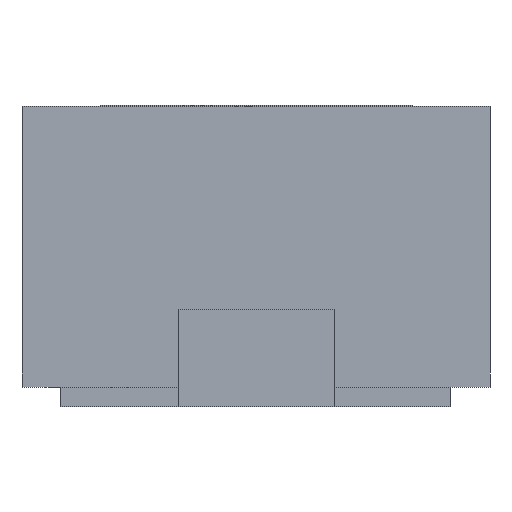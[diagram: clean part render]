
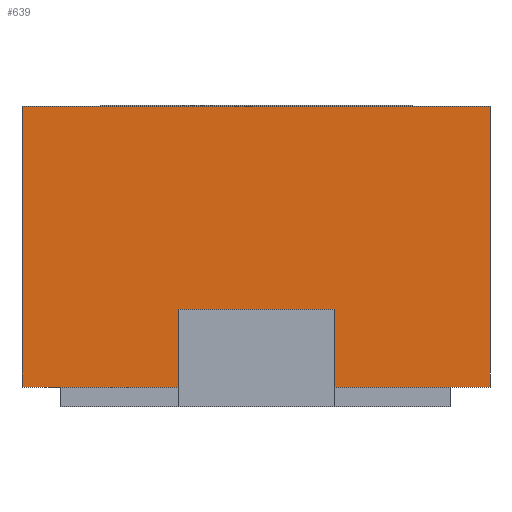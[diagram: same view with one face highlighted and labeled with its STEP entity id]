
A CAD part, front view. The second image highlights one B-rep face of the part: STEP entity #639.
In plain terms, the highlighted planar face has unit normal (0, -1, 0).
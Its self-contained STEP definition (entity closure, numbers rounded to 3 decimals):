
#44=FACE_OUTER_BOUND('',#74,.T.);
#74=EDGE_LOOP('',(#537,#538,#539,#540,#541,#542,#543,#544));
#120=LINE('',#914,#204);
#128=LINE('',#930,#212);
#145=LINE('',#964,#229);
#148=LINE('',#970,#232);
#151=LINE('',#975,#235);
#155=LINE('',#983,#239);
#159=LINE('',#991,#243);
#160=LINE('',#993,#244);
#204=VECTOR('',#752,0.2);
#212=VECTOR('',#760,0.2);
#229=VECTOR('',#791,0.1);
#232=VECTOR('',#796,0.2);
#235=VECTOR('',#801,0.1);
#239=VECTOR('',#809,0.36);
#243=VECTOR('',#817,0.36);
#244=VECTOR('',#820,0.6);
#274=VERTEX_POINT('',#911);
#275=VERTEX_POINT('',#913);
#282=VERTEX_POINT('',#927);
#283=VERTEX_POINT('',#929);
#293=VERTEX_POINT('',#963);
#295=VERTEX_POINT('',#969);
#297=VERTEX_POINT('',#979);
#300=VERTEX_POINT('',#989);
#344=EDGE_CURVE('',#275,#274,#120,.T.);
#352=EDGE_CURVE('',#283,#282,#128,.T.);
#369=EDGE_CURVE('',#293,#275,#145,.T.);
#372=EDGE_CURVE('',#295,#293,#148,.T.);
#375=EDGE_CURVE('',#282,#295,#151,.T.);
#379=EDGE_CURVE('',#283,#297,#155,.T.);
#383=EDGE_CURVE('',#274,#300,#159,.T.);
#384=EDGE_CURVE('',#300,#297,#160,.T.);
#537=ORIENTED_EDGE('',*,*,#369,.T.);
#538=ORIENTED_EDGE('',*,*,#344,.T.);
#539=ORIENTED_EDGE('',*,*,#383,.T.);
#540=ORIENTED_EDGE('',*,*,#384,.T.);
#541=ORIENTED_EDGE('',*,*,#379,.F.);
#542=ORIENTED_EDGE('',*,*,#352,.T.);
#543=ORIENTED_EDGE('',*,*,#375,.T.);
#544=ORIENTED_EDGE('',*,*,#372,.T.);
#582=PLANE('',#673);
#639=ADVANCED_FACE('',(#44),#582,.T.);
#673=AXIS2_PLACEMENT_3D('',#992,#818,#819);
#752=DIRECTION('',(1.,0.,0.));
#760=DIRECTION('',(1.,0.,0.));
#791=DIRECTION('',(0.,0.,-1.));
#796=DIRECTION('',(1.,0.,0.));
#801=DIRECTION('',(0.,0.,1.));
#809=DIRECTION('',(0.,0.,1.));
#817=DIRECTION('',(0.,0.,1.));
#818=DIRECTION('center_axis',(0.,-1.,0.));
#819=DIRECTION('ref_axis',(0.,0.,-1.));
#820=DIRECTION('',(-1.,0.,0.));
#911=CARTESIAN_POINT('',(0.3,-0.5,0.));
#913=CARTESIAN_POINT('',(0.1,-0.5,0.));
#914=CARTESIAN_POINT('',(-0.3,-0.5,0.));
#927=CARTESIAN_POINT('',(-0.1,-0.5,0.));
#929=CARTESIAN_POINT('',(-0.3,-0.5,0.));
#930=CARTESIAN_POINT('',(-0.3,-0.5,0.));
#963=CARTESIAN_POINT('',(0.1,-0.5,0.1));
#964=CARTESIAN_POINT('',(0.1,-0.5,0.));
#969=CARTESIAN_POINT('',(-0.1,-0.5,0.1));
#970=CARTESIAN_POINT('',(0.15,-0.5,0.1));
#975=CARTESIAN_POINT('',(-0.1,-0.5,0.));
#979=CARTESIAN_POINT('',(-0.3,-0.5,0.36));
#983=CARTESIAN_POINT('',(-0.3,-0.5,0.));
#989=CARTESIAN_POINT('',(0.3,-0.5,0.36));
#991=CARTESIAN_POINT('',(0.3,-0.5,0.));
#992=CARTESIAN_POINT('Origin',(0.3,-0.5,0.));
#993=CARTESIAN_POINT('',(-0.3,-0.5,0.36));
